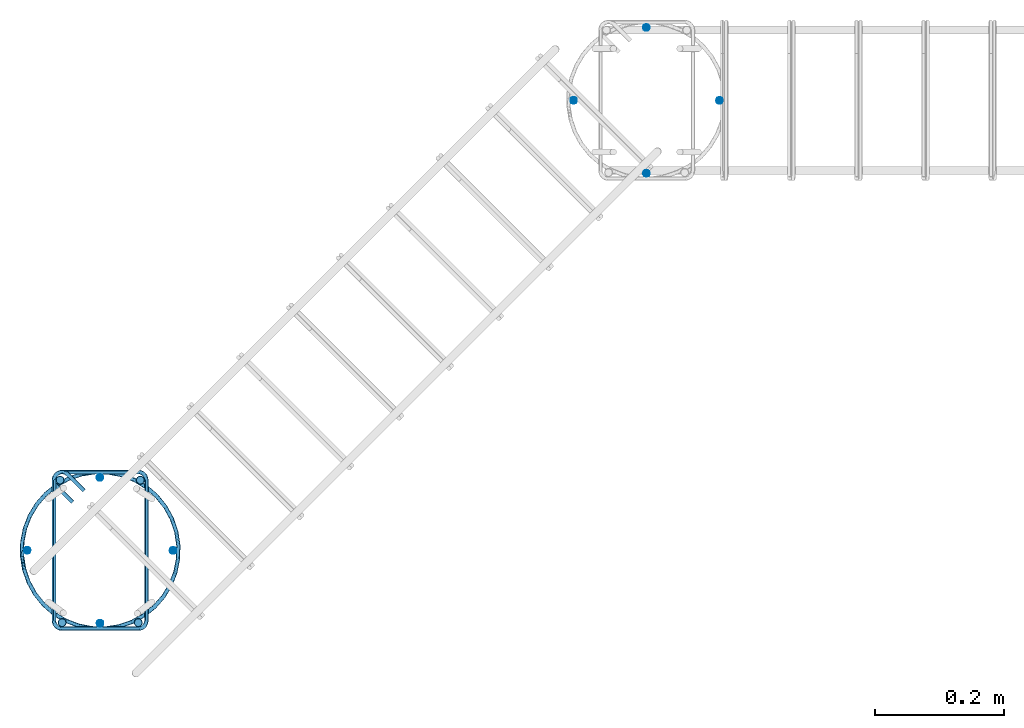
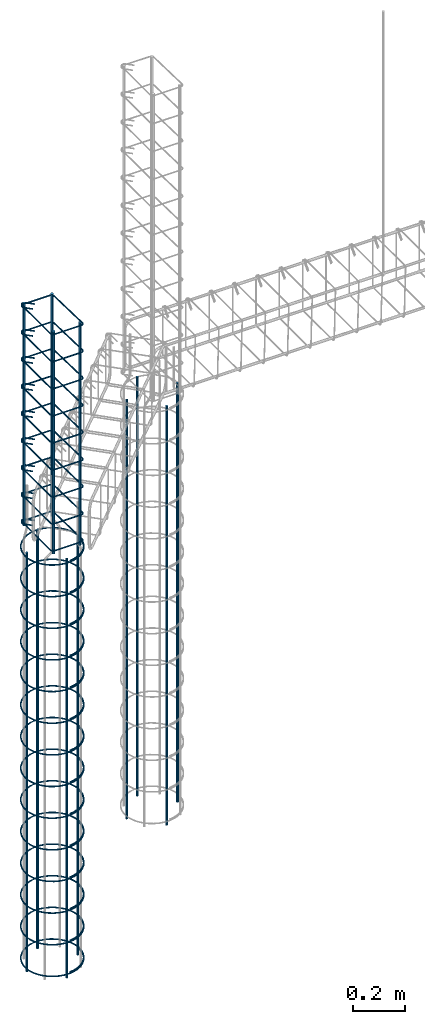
# One storey, part 2 of 14: 8 reinforcing bars.
"""IFC4 building model written with IfcOpenShell, lengths in centimetres."""

from ifc_helpers import new_model, entity, si_unit, converted_unit, derived_unit, direction, frame, origin, place, context, subcontext, project, spatial, type_object, element, save


model = new_model("IFC4")

# Units and contexts
model_context = context("Model", 3, precision=0.001, world=origin(), true_north=direction((6.123233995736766e-17, 1.0)))
body_context = subcontext(model_context, "Body", "Model", "MODEL_VIEW")
ifc_project = project(units=[si_unit("LENGTHUNIT", "METRE", prefix="CENTI"), si_unit("AREAUNIT", "SQUARE_METRE"), converted_unit("PLANEANGLEUNIT", "DEGREE", entity("IfcPlaneAngleMeasure", 0.017453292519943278), si_unit("PLANEANGLEUNIT", "RADIAN"), dimensions=[0, 0, 0, 0, 0, 0, 0]), si_unit("VOLUMEUNIT", "CUBIC_METRE"), derived_unit("THERMALTRANSMITTANCEUNIT", [(si_unit("MASSUNIT", "GRAM", prefix="KILO"), 1), (si_unit("THERMODYNAMICTEMPERATUREUNIT", "KELVIN"), -1), (si_unit("TIMEUNIT", "SECOND"), -3)])], contexts=[model_context])

# Site, building, storey
site_placement = place(None, origin())
site = spatial("IfcSite", under=ifc_project, at=site_placement, Name="Default", CompositionType="ELEMENT")
building_placement = place(site_placement, origin())
building = spatial("IfcBuilding", under=site, at=building_placement, Name="CONTENÇÃO DE ARQUIBANCADA - GINÁSIO PADRÃO", CompositionType="ELEMENT")
storey_placement = place(building_placement, frame((0.0, 0.0, -100.0)))
storey = spatial("IfcBuildingStorey", under=building, at=storey_placement, Name="Nível 3", CompositionType="ELEMENT", Elevation=-100.0)

# Reinforcing bars
reinforcing_bar_type_1 = type_object("IfcReinforcingBarType", Name="Barra do vergalhão:10 CA-50", PredefinedType="NOTDEFINED")
reinforcing_bar_1_placement = place(storey_placement, origin())
element("IfcReinforcingBar", 1, at=reinforcing_bar_1_placement, inside=storey, type_object=reinforcing_bar_type_1, Name="Barra do vergalhão:10 CA-50 : Forma 01", ObjectType="Barra do vergalhão:10 CA-50", context=body_context, shape_type="AdvancedSweptSolid", body=[
    entity("IfcSweptDiskSolid", entity("IfcIndexedPolyCurve", entity("IfcCartesianPointList3D", [[3.1267334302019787, 249.06545923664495, -129.99999999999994], [3.1267334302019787, 249.06545923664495, 68.00000000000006]]), None, False), 0.5, None, 0.0, 1.0),
    entity("IfcSweptDiskSolid", entity("IfcIndexedPolyCurve", entity("IfcCartesianPointList3D", [[25.816600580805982, 249.0327573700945, -129.99999999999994], [25.816600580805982, 249.0327573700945, 68.00000000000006]]), None, False), 0.5, None, 0.0, 1.0),
])
reinforcing_bar_2_placement = place(storey_placement, origin())
element("IfcReinforcingBar", 2, at=reinforcing_bar_2_placement, inside=storey, type_object=reinforcing_bar_type_1, Name="Barra do vergalhão:10 CA-50 : Forma 01", ObjectType="Barra do vergalhão:10 CA-50", context=body_context, shape_type="AdvancedSweptSolid", body=[
    entity("IfcSweptDiskSolid", entity("IfcIndexedPolyCurve", entity("IfcCartesianPointList3D", [[14.42261420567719, 260.39404187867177, -129.99999999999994], [14.42261420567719, 260.39404187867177, 68.00000000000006]]), None, False), 0.5, None, 0.0, 1.0),
    entity("IfcSweptDiskSolid", entity("IfcIndexedPolyCurve", entity("IfcCartesianPointList3D", [[14.455316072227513, 237.7041747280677, -129.99999999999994], [14.455316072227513, 237.7041747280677, 68.00000000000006]]), None, False), 0.5, None, 0.0, 1.0),
])
reinforcing_bar_3_placement = place(storey_placement, origin())
element("IfcReinforcingBar", 3, at=reinforcing_bar_3_placement, inside=storey, type_object=reinforcing_bar_type_1, Name="Barra do vergalhão:10 CA-50 : Forma 01", ObjectType="Barra do vergalhão:10 CA-50", context=body_context, shape_type="AdvancedSweptSolid", body=[
    entity("IfcSweptDiskSolid", entity("IfcIndexedPolyCurve", entity("IfcCartesianPointList3D", [[-81.87326656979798, 179.0654592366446, -129.99999999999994], [-81.87326656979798, 179.0654592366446, 68.00000000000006]]), None, False), 0.5, None, 0.0, 1.0),
    entity("IfcSweptDiskSolid", entity("IfcIndexedPolyCurve", entity("IfcCartesianPointList3D", [[-59.18339941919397, 179.03275737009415, -129.99999999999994], [-59.18339941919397, 179.03275737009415, 68.00000000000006]]), None, False), 0.5, None, 0.0, 1.0),
])
reinforcing_bar_4_placement = place(storey_placement, origin())
element("IfcReinforcingBar", 4, at=reinforcing_bar_4_placement, inside=storey, type_object=reinforcing_bar_type_1, Name="Barra do vergalhão:10 CA-50 : Forma 01", ObjectType="Barra do vergalhão:10 CA-50", context=body_context, shape_type="AdvancedSweptSolid", body=[
    entity("IfcSweptDiskSolid", entity("IfcIndexedPolyCurve", entity("IfcCartesianPointList3D", [[-70.57738579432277, 190.39404187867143, -129.99999999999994], [-70.57738579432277, 190.39404187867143, 68.00000000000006]]), None, False), 0.5, None, 0.0, 1.0),
    entity("IfcSweptDiskSolid", entity("IfcIndexedPolyCurve", entity("IfcCartesianPointList3D", [[-70.54468392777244, 167.70417472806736, -129.99999999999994], [-70.54468392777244, 167.70417472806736, 68.00000000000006]]), None, False), 0.5, None, 0.0, 1.0),
])
reinforcing_bar_type_2 = type_object("IfcReinforcingBarType", Name="Barra do vergalhão:12.5 CA-50", PredefinedType="NOTDEFINED")
reinforcing_bar_5_placement = place(storey_placement, origin())
element("IfcReinforcingBar", 5, at=reinforcing_bar_5_placement, inside=storey, type_object=reinforcing_bar_type_2, Name="Barra do vergalhão:12.5 CA-50 : Forma 01", ObjectType="Barra do vergalhão:12.5 CA-50", context=body_context, shape_type="AdvancedSweptSolid", body=[
    entity("IfcSweptDiskSolid", entity("IfcIndexedPolyCurve", entity("IfcCartesianPointList3D", [[-64.29968392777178, 189.999175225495, 72.5], [-64.29968392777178, 189.999175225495, 177.5]]), None, False), 0.625, None, 0.0, 1.0),
    entity("IfcSweptDiskSolid", entity("IfcIndexedPolyCurve", entity("IfcCartesianPointList3D", [[-76.78968392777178, 189.999175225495, 72.5], [-76.78968392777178, 189.999175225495, 177.5]]), None, False), 0.625, None, 0.0, 1.0),
])
reinforcing_bar_6_placement = place(storey_placement, origin())
element("IfcReinforcingBar", 6, at=reinforcing_bar_6_placement, inside=storey, type_object=reinforcing_bar_type_2, Name="Barra do vergalhão:12.5 CA-50 : Forma 01", ObjectType="Barra do vergalhão:12.5 CA-50", context=body_context, shape_type="AdvancedSweptSolid", body=[
    entity("IfcSweptDiskSolid", entity("IfcIndexedPolyCurve", entity("IfcCartesianPointList3D", [[-76.46968392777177, 167.829175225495, 72.5], [-76.46968392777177, 167.829175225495, 177.5]]), None, False), 0.625, None, 0.0, 1.0),
    entity("IfcSweptDiskSolid", entity("IfcIndexedPolyCurve", entity("IfcCartesianPointList3D", [[-64.61968392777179, 167.829175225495, 72.5], [-64.61968392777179, 167.829175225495, 177.5]]), None, False), 0.625, None, 0.0, 1.0),
])
reinforcing_bar_type_3 = type_object("IfcReinforcingBarType", Name="Barra do vergalhão:6.3 CA-50", PredefinedType="NOTDEFINED")
reinforcing_bar_7_placement = place(storey_placement, origin())
element("IfcReinforcingBar", 7, at=reinforcing_bar_7_placement, inside=storey, type_object=reinforcing_bar_type_3, Name="Barra do vergalhão:6.3 CA-50 : Forma 22", ObjectType="Barra do vergalhão:6.3 CA-50", context=body_context, shape_type="AdvancedSweptSolid", body=[
    entity("IfcSweptDiskSolid", entity("IfcIndexedPolyCurve", entity("IfcCartesianPointList3D", [[-73.02876448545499, 188.34016487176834, 74.30003342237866], [-75.57872938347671, 190.89012976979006, 74.30003342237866], [-76.95186505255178, 191.16326343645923, 74.30003342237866], [-77.72968392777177, 189.999175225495, 74.30003342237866], [-77.72968392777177, 168.149175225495, 74.30003342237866], [-77.36063847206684, 167.25822068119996, 74.30003342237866], [-76.46968392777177, 166.889175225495, 74.30003342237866], [-64.6196839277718, 166.889175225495, 74.30003342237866], [-63.72872938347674, 167.25809742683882, 74.29049624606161], [-63.35968392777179, 168.1487544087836, 74.26747146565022], [-63.35968392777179, 189.9995960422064, 73.70259537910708], [-63.728729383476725, 190.8902530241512, 73.67957059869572], [-64.61968392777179, 191.259175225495, 73.67003342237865], [-76.46968392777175, 191.25917522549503, 73.67003342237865], [-77.63377213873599, 190.48135635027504, 73.67003342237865], [-77.36063847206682, 189.10822068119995, 73.67003342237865], [-74.8106735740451, 186.55825578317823, 73.67003342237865]]), [entity("IfcLineIndex", [1, 2]), entity("IfcArcIndex", [2, 3, 4]), entity("IfcLineIndex", [4, 5]), entity("IfcArcIndex", [5, 6, 7]), entity("IfcLineIndex", [7, 8]), entity("IfcArcIndex", [8, 9, 10]), entity("IfcLineIndex", [10, 11]), entity("IfcArcIndex", [11, 12, 13]), entity("IfcLineIndex", [13, 14]), entity("IfcArcIndex", [14, 15, 16]), entity("IfcLineIndex", [16, 17])], False), 0.31499999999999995, None, 0.0, 546.0000000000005),
    entity("IfcSweptDiskSolid", entity("IfcIndexedPolyCurve", entity("IfcCartesianPointList3D", [[-73.02876448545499, 188.34016487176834, 87.0840551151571], [-75.57872938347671, 190.89012976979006, 87.0840551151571], [-76.95186505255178, 191.16326343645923, 87.0840551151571], [-77.72968392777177, 189.999175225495, 87.0840551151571], [-77.72968392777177, 168.149175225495, 87.0840551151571], [-77.36063847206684, 167.25822068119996, 87.0840551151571], [-76.46968392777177, 166.889175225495, 87.0840551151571], [-64.6196839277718, 166.889175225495, 87.0840551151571], [-63.72872938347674, 167.25809742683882, 87.07451793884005], [-63.35968392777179, 168.1487544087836, 87.05149315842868], [-63.35968392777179, 189.9995960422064, 86.48661707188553], [-63.728729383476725, 190.8902530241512, 86.46359229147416], [-64.61968392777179, 191.259175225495, 86.4540551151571], [-76.46968392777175, 191.25917522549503, 86.4540551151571], [-77.63377213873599, 190.48135635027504, 86.4540551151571], [-77.36063847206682, 189.10822068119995, 86.4540551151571], [-74.8106735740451, 186.55825578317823, 86.4540551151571]]), [entity("IfcLineIndex", [1, 2]), entity("IfcArcIndex", [2, 3, 4]), entity("IfcLineIndex", [4, 5]), entity("IfcArcIndex", [5, 6, 7]), entity("IfcLineIndex", [7, 8]), entity("IfcArcIndex", [8, 9, 10]), entity("IfcLineIndex", [10, 11]), entity("IfcArcIndex", [11, 12, 13]), entity("IfcLineIndex", [13, 14]), entity("IfcArcIndex", [14, 15, 16]), entity("IfcLineIndex", [16, 17])], False), 0.31499999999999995, None, 0.0, 546.0000000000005),
    entity("IfcSweptDiskSolid", entity("IfcIndexedPolyCurve", entity("IfcCartesianPointList3D", [[-73.02876448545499, 188.34016487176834, 99.86807680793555], [-75.57872938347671, 190.89012976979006, 99.86807680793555], [-76.95186505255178, 191.16326343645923, 99.86807680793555], [-77.72968392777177, 189.999175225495, 99.86807680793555], [-77.72968392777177, 168.149175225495, 99.86807680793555], [-77.36063847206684, 167.25822068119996, 99.86807680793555], [-76.46968392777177, 166.889175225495, 99.86807680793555], [-64.6196839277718, 166.889175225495, 99.86807680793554], [-63.72872938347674, 167.25809742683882, 99.8585396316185], [-63.35968392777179, 168.1487544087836, 99.83551485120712], [-63.35968392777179, 189.9995960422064, 99.27063876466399], [-63.728729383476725, 190.8902530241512, 99.24761398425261], [-64.61968392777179, 191.259175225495, 99.23807680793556], [-76.46968392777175, 191.25917522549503, 99.23807680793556], [-77.63377213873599, 190.48135635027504, 99.23807680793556], [-77.36063847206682, 189.10822068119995, 99.23807680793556], [-74.8106735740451, 186.55825578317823, 99.23807680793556]]), [entity("IfcLineIndex", [1, 2]), entity("IfcArcIndex", [2, 3, 4]), entity("IfcLineIndex", [4, 5]), entity("IfcArcIndex", [5, 6, 7]), entity("IfcLineIndex", [7, 8]), entity("IfcArcIndex", [8, 9, 10]), entity("IfcLineIndex", [10, 11]), entity("IfcArcIndex", [11, 12, 13]), entity("IfcLineIndex", [13, 14]), entity("IfcArcIndex", [14, 15, 16]), entity("IfcLineIndex", [16, 17])], False), 0.31499999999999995, None, 0.0, 546.0000000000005),
    entity("IfcSweptDiskSolid", entity("IfcIndexedPolyCurve", entity("IfcCartesianPointList3D", [[-73.02876448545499, 188.34016487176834, 112.652098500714], [-75.57872938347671, 190.89012976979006, 112.652098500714], [-76.95186505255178, 191.16326343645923, 112.652098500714], [-77.72968392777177, 189.999175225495, 112.652098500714], [-77.72968392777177, 168.149175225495, 112.652098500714], [-77.36063847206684, 167.25822068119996, 112.652098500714], [-76.46968392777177, 166.889175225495, 112.652098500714], [-64.6196839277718, 166.889175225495, 112.652098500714], [-63.72872938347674, 167.25809742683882, 112.64256132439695], [-63.35968392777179, 168.1487544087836, 112.61953654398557], [-63.35968392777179, 189.9995960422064, 112.05466045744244], [-63.728729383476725, 190.8902530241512, 112.03163567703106], [-64.61968392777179, 191.259175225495, 112.02209850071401], [-76.46968392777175, 191.25917522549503, 112.02209850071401], [-77.63377213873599, 190.48135635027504, 112.02209850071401], [-77.36063847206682, 189.10822068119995, 112.02209850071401], [-74.8106735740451, 186.55825578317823, 112.02209850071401]]), [entity("IfcLineIndex", [1, 2]), entity("IfcArcIndex", [2, 3, 4]), entity("IfcLineIndex", [4, 5]), entity("IfcArcIndex", [5, 6, 7]), entity("IfcLineIndex", [7, 8]), entity("IfcArcIndex", [8, 9, 10]), entity("IfcLineIndex", [10, 11]), entity("IfcArcIndex", [11, 12, 13]), entity("IfcLineIndex", [13, 14]), entity("IfcArcIndex", [14, 15, 16]), entity("IfcLineIndex", [16, 17])], False), 0.31499999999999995, None, 0.0, 546.0000000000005),
    entity("IfcSweptDiskSolid", entity("IfcIndexedPolyCurve", entity("IfcCartesianPointList3D", [[-73.02876448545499, 188.34016487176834, 125.43612019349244], [-75.57872938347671, 190.89012976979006, 125.43612019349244], [-76.95186505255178, 191.16326343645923, 125.43612019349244], [-77.72968392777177, 189.999175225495, 125.43612019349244], [-77.72968392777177, 168.149175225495, 125.43612019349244], [-77.36063847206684, 167.25822068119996, 125.43612019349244], [-76.46968392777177, 166.889175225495, 125.43612019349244], [-64.6196839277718, 166.889175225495, 125.43612019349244], [-63.72872938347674, 167.25809742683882, 125.4265830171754], [-63.35968392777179, 168.1487544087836, 125.40355823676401], [-63.35968392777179, 189.9995960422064, 124.83868215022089], [-63.728729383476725, 190.8902530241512, 124.8156573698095], [-64.61968392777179, 191.259175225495, 124.80612019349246], [-76.46968392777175, 191.25917522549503, 124.80612019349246], [-77.63377213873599, 190.48135635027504, 124.80612019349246], [-77.36063847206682, 189.10822068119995, 124.80612019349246], [-74.8106735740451, 186.55825578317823, 124.80612019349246]]), [entity("IfcLineIndex", [1, 2]), entity("IfcArcIndex", [2, 3, 4]), entity("IfcLineIndex", [4, 5]), entity("IfcArcIndex", [5, 6, 7]), entity("IfcLineIndex", [7, 8]), entity("IfcArcIndex", [8, 9, 10]), entity("IfcLineIndex", [10, 11]), entity("IfcArcIndex", [11, 12, 13]), entity("IfcLineIndex", [13, 14]), entity("IfcArcIndex", [14, 15, 16]), entity("IfcLineIndex", [16, 17])], False), 0.31499999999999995, None, 0.0, 546.0000000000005),
    entity("IfcSweptDiskSolid", entity("IfcIndexedPolyCurve", entity("IfcCartesianPointList3D", [[-73.02876448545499, 188.34016487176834, 138.22014188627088], [-75.57872938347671, 190.89012976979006, 138.22014188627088], [-76.95186505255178, 191.16326343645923, 138.22014188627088], [-77.72968392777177, 189.999175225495, 138.22014188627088], [-77.72968392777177, 168.149175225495, 138.22014188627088], [-77.36063847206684, 167.25822068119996, 138.22014188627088], [-76.46968392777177, 166.889175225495, 138.22014188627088], [-64.6196839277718, 166.889175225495, 138.22014188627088], [-63.72872938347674, 167.25809742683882, 138.21060470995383], [-63.35968392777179, 168.1487544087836, 138.18757992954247], [-63.35968392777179, 189.9995960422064, 137.62270384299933], [-63.728729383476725, 190.8902530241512, 137.59967906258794], [-64.61968392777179, 191.259175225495, 137.5901418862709], [-76.46968392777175, 191.25917522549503, 137.5901418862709], [-77.63377213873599, 190.48135635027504, 137.5901418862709], [-77.36063847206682, 189.10822068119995, 137.5901418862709], [-74.8106735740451, 186.55825578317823, 137.5901418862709]]), [entity("IfcLineIndex", [1, 2]), entity("IfcArcIndex", [2, 3, 4]), entity("IfcLineIndex", [4, 5]), entity("IfcArcIndex", [5, 6, 7]), entity("IfcLineIndex", [7, 8]), entity("IfcArcIndex", [8, 9, 10]), entity("IfcLineIndex", [10, 11]), entity("IfcArcIndex", [11, 12, 13]), entity("IfcLineIndex", [13, 14]), entity("IfcArcIndex", [14, 15, 16]), entity("IfcLineIndex", [16, 17])], False), 0.31499999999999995, None, 0.0, 546.0000000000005),
    entity("IfcSweptDiskSolid", entity("IfcIndexedPolyCurve", entity("IfcCartesianPointList3D", [[-73.02876448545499, 188.34016487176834, 151.00416357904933], [-75.57872938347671, 190.89012976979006, 151.00416357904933], [-76.95186505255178, 191.16326343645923, 151.00416357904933], [-77.72968392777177, 189.999175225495, 151.00416357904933], [-77.72968392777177, 168.149175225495, 151.00416357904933], [-77.36063847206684, 167.25822068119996, 151.00416357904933], [-76.46968392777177, 166.889175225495, 151.00416357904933], [-64.6196839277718, 166.889175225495, 151.00416357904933], [-63.72872938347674, 167.25809742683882, 150.99462640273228], [-63.35968392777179, 168.1487544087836, 150.97160162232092], [-63.35968392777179, 189.9995960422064, 150.40672553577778], [-63.728729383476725, 190.8902530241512, 150.3837007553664], [-64.61968392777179, 191.259175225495, 150.37416357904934], [-76.46968392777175, 191.25917522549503, 150.37416357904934], [-77.63377213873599, 190.48135635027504, 150.37416357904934], [-77.36063847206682, 189.10822068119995, 150.37416357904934], [-74.8106735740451, 186.55825578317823, 150.37416357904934]]), [entity("IfcLineIndex", [1, 2]), entity("IfcArcIndex", [2, 3, 4]), entity("IfcLineIndex", [4, 5]), entity("IfcArcIndex", [5, 6, 7]), entity("IfcLineIndex", [7, 8]), entity("IfcArcIndex", [8, 9, 10]), entity("IfcLineIndex", [10, 11]), entity("IfcArcIndex", [11, 12, 13]), entity("IfcLineIndex", [13, 14]), entity("IfcArcIndex", [14, 15, 16]), entity("IfcLineIndex", [16, 17])], False), 0.31499999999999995, None, 0.0, 546.0000000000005),
    entity("IfcSweptDiskSolid", entity("IfcIndexedPolyCurve", entity("IfcCartesianPointList3D", [[-73.02876448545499, 188.34016487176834, 163.78818527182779], [-75.57872938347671, 190.89012976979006, 163.78818527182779], [-76.95186505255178, 191.16326343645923, 163.78818527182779], [-77.72968392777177, 189.999175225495, 163.78818527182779], [-77.72968392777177, 168.149175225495, 163.78818527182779], [-77.36063847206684, 167.25822068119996, 163.78818527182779], [-76.46968392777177, 166.889175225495, 163.78818527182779], [-64.6196839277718, 166.889175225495, 163.78818527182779], [-63.72872938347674, 167.25809742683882, 163.77864809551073], [-63.35968392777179, 168.1487544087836, 163.75562331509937], [-63.35968392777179, 189.9995960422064, 163.19074722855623], [-63.728729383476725, 190.8902530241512, 163.16772244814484], [-64.61968392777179, 191.259175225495, 163.1581852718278], [-76.46968392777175, 191.25917522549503, 163.1581852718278], [-77.63377213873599, 190.48135635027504, 163.1581852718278], [-77.36063847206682, 189.10822068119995, 163.1581852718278], [-74.8106735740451, 186.55825578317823, 163.1581852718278]]), [entity("IfcLineIndex", [1, 2]), entity("IfcArcIndex", [2, 3, 4]), entity("IfcLineIndex", [4, 5]), entity("IfcArcIndex", [5, 6, 7]), entity("IfcLineIndex", [7, 8]), entity("IfcArcIndex", [8, 9, 10]), entity("IfcLineIndex", [10, 11]), entity("IfcArcIndex", [11, 12, 13]), entity("IfcLineIndex", [13, 14]), entity("IfcArcIndex", [14, 15, 16]), entity("IfcLineIndex", [16, 17])], False), 0.31499999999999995, None, 0.0, 546.0000000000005),
    entity("IfcSweptDiskSolid", entity("IfcIndexedPolyCurve", entity("IfcCartesianPointList3D", [[-73.02876448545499, 188.34016487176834, 176.57220696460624], [-75.57872938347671, 190.89012976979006, 176.57220696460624], [-76.95186505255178, 191.16326343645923, 176.57220696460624], [-77.72968392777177, 189.999175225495, 176.57220696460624], [-77.72968392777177, 168.149175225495, 176.57220696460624], [-77.36063847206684, 167.25822068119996, 176.57220696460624], [-76.46968392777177, 166.889175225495, 176.57220696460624], [-64.6196839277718, 166.889175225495, 176.57220696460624], [-63.72872938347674, 167.25809742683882, 176.56266978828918], [-63.35968392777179, 168.1487544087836, 176.53964500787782], [-63.35968392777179, 189.9995960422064, 175.97476892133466], [-63.728729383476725, 190.8902530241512, 175.9517441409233], [-64.61968392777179, 191.259175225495, 175.94220696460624], [-76.46968392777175, 191.25917522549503, 175.94220696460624], [-77.63377213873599, 190.48135635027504, 175.94220696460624], [-77.36063847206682, 189.10822068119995, 175.94220696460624], [-74.8106735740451, 186.55825578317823, 175.94220696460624]]), [entity("IfcLineIndex", [1, 2]), entity("IfcArcIndex", [2, 3, 4]), entity("IfcLineIndex", [4, 5]), entity("IfcArcIndex", [5, 6, 7]), entity("IfcLineIndex", [7, 8]), entity("IfcArcIndex", [8, 9, 10]), entity("IfcLineIndex", [10, 11]), entity("IfcArcIndex", [11, 12, 13]), entity("IfcLineIndex", [13, 14]), entity("IfcArcIndex", [14, 15, 16]), entity("IfcLineIndex", [16, 17])], False), 0.31499999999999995, None, 0.0, 546.0000000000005),
])
reinforcing_bar_8_placement = place(storey_placement, origin())
element("IfcReinforcingBar", 8, at=reinforcing_bar_8_placement, inside=storey, type_object=reinforcing_bar_type_3, Name="Barra do vergalhão:6.3 CA-50 : Forma 33", ObjectType="Barra do vergalhão:6.3 CA-50", context=body_context, shape_type="AdvancedSweptSolid", body=[
    entity("IfcSweptDiskSolid", entity("IfcIndexedPolyCurve", entity("IfcCartesianPointList3D", [[-69.72516478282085, 166.91676541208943, -127.19078734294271], [-58.3872741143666, 179.89369437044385, -127.19078734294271], [-71.36420307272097, 191.23158503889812, -127.19078734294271], [-79.7207583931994, 187.09127460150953, -127.50578734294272], [-82.7020937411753, 178.2546560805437, -127.82078734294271], [-69.7251647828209, 166.91676541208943, -127.82078734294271], [-58.3872741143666, 179.89369437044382, -127.82078734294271]]), [entity("IfcArcIndex", [1, 2, 3]), entity("IfcArcIndex", [3, 4, 5]), entity("IfcArcIndex", [5, 6, 7])], False), 0.31499999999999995, None, 0.0, 449.9458977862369),
    entity("IfcSweptDiskSolid", entity("IfcIndexedPolyCurve", entity("IfcCartesianPointList3D", [[-69.72516478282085, 166.91676541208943, -112.23880370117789], [-58.3872741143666, 179.89369437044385, -112.23880370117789], [-71.36420307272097, 191.23158503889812, -112.23880370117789], [-79.7207583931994, 187.09127460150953, -112.5538037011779], [-82.7020937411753, 178.2546560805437, -112.86880370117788], [-69.7251647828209, 166.91676541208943, -112.86880370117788], [-58.3872741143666, 179.89369437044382, -112.86880370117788]]), [entity("IfcArcIndex", [1, 2, 3]), entity("IfcArcIndex", [3, 4, 5]), entity("IfcArcIndex", [5, 6, 7])], False), 0.31499999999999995, None, 0.0, 449.9458977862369),
    entity("IfcSweptDiskSolid", entity("IfcIndexedPolyCurve", entity("IfcCartesianPointList3D", [[-69.72516478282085, 166.91676541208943, -97.28682005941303], [-58.3872741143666, 179.89369437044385, -97.28682005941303], [-71.36420307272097, 191.23158503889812, -97.28682005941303], [-79.7207583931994, 187.09127460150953, -97.60182005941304], [-82.7020937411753, 178.2546560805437, -97.91682005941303], [-69.7251647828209, 166.91676541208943, -97.91682005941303], [-58.3872741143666, 179.89369437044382, -97.91682005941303]]), [entity("IfcArcIndex", [1, 2, 3]), entity("IfcArcIndex", [3, 4, 5]), entity("IfcArcIndex", [5, 6, 7])], False), 0.31499999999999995, None, 0.0, 449.9458977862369),
    entity("IfcSweptDiskSolid", entity("IfcIndexedPolyCurve", entity("IfcCartesianPointList3D", [[-69.72516478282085, 166.91676541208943, -82.33483641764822], [-58.3872741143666, 179.89369437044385, -82.33483641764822], [-71.36420307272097, 191.23158503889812, -82.33483641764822], [-79.7207583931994, 187.09127460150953, -82.64983641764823], [-82.7020937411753, 178.2546560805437, -82.9648364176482], [-69.7251647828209, 166.91676541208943, -82.9648364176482], [-58.3872741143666, 179.89369437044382, -82.9648364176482]]), [entity("IfcArcIndex", [1, 2, 3]), entity("IfcArcIndex", [3, 4, 5]), entity("IfcArcIndex", [5, 6, 7])], False), 0.31499999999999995, None, 0.0, 449.9458977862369),
    entity("IfcSweptDiskSolid", entity("IfcIndexedPolyCurve", entity("IfcCartesianPointList3D", [[-69.72516478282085, 166.91676541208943, -67.38285277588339], [-58.3872741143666, 179.89369437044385, -67.38285277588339], [-71.36420307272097, 191.23158503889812, -67.38285277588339], [-79.7207583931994, 187.09127460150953, -67.6978527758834], [-82.7020937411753, 178.2546560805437, -68.01285277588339], [-69.7251647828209, 166.91676541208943, -68.01285277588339], [-58.3872741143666, 179.89369437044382, -68.01285277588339]]), [entity("IfcArcIndex", [1, 2, 3]), entity("IfcArcIndex", [3, 4, 5]), entity("IfcArcIndex", [5, 6, 7])], False), 0.31499999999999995, None, 0.0, 449.9458977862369),
    entity("IfcSweptDiskSolid", entity("IfcIndexedPolyCurve", entity("IfcCartesianPointList3D", [[-69.72516478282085, 166.91676541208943, -52.43086913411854], [-58.3872741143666, 179.89369437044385, -52.43086913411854], [-71.36420307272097, 191.23158503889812, -52.430869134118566], [-79.7207583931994, 187.09127460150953, -52.74586913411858], [-82.7020937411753, 178.2546560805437, -53.06086913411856], [-69.7251647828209, 166.91676541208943, -53.06086913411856], [-58.3872741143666, 179.89369437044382, -53.06086913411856]]), [entity("IfcArcIndex", [1, 2, 3]), entity("IfcArcIndex", [3, 4, 5]), entity("IfcArcIndex", [5, 6, 7])], False), 0.31499999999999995, None, 0.0, 449.9458977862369),
    entity("IfcSweptDiskSolid", entity("IfcIndexedPolyCurve", entity("IfcCartesianPointList3D", [[-69.72516478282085, 166.91676541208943, -37.47888549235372], [-58.3872741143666, 179.89369437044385, -37.47888549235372], [-71.36420307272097, 191.23158503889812, -37.47888549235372], [-79.7207583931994, 187.09127460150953, -37.79388549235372], [-82.7020937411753, 178.2546560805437, -38.10888549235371], [-69.7251647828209, 166.91676541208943, -38.10888549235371], [-58.3872741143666, 179.89369437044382, -38.10888549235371]]), [entity("IfcArcIndex", [1, 2, 3]), entity("IfcArcIndex", [3, 4, 5]), entity("IfcArcIndex", [5, 6, 7])], False), 0.31499999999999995, None, 0.0, 449.9458977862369),
    entity("IfcSweptDiskSolid", entity("IfcIndexedPolyCurve", entity("IfcCartesianPointList3D", [[-69.72516478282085, 166.91676541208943, -22.526901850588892], [-58.3872741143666, 179.89369437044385, -22.526901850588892], [-71.36420307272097, 191.23158503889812, -22.526901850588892], [-79.7207583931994, 187.09127460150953, -22.841901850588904], [-82.7020937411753, 178.2546560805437, -23.156901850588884], [-69.7251647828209, 166.91676541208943, -23.156901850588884], [-58.3872741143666, 179.89369437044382, -23.156901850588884]]), [entity("IfcArcIndex", [1, 2, 3]), entity("IfcArcIndex", [3, 4, 5]), entity("IfcArcIndex", [5, 6, 7])], False), 0.31499999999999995, None, 0.0, 449.9458977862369),
    entity("IfcSweptDiskSolid", entity("IfcIndexedPolyCurve", entity("IfcCartesianPointList3D", [[-69.72516478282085, 166.91676541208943, -7.574918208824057], [-58.3872741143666, 179.89369437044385, -7.574918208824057], [-71.36420307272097, 191.23158503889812, -7.57491820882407], [-79.7207583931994, 187.09127460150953, -7.889918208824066], [-82.7020937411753, 178.2546560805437, -8.204918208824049], [-69.7251647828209, 166.91676541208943, -8.204918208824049], [-58.3872741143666, 179.89369437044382, -8.204918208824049]]), [entity("IfcArcIndex", [1, 2, 3]), entity("IfcArcIndex", [3, 4, 5]), entity("IfcArcIndex", [5, 6, 7])], False), 0.31499999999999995, None, 0.0, 449.9458977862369),
    entity("IfcSweptDiskSolid", entity("IfcIndexedPolyCurve", entity("IfcCartesianPointList3D", [[-69.72516478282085, 166.91676541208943, 7.37706543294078], [-58.3872741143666, 179.89369437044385, 7.37706543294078], [-71.36420307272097, 191.23158503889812, 7.377065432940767], [-79.7207583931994, 187.09127460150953, 7.062065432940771], [-82.7020937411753, 178.2546560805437, 6.747065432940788], [-69.7251647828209, 166.91676541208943, 6.747065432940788], [-58.3872741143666, 179.89369437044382, 6.747065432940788]]), [entity("IfcArcIndex", [1, 2, 3]), entity("IfcArcIndex", [3, 4, 5]), entity("IfcArcIndex", [5, 6, 7])], False), 0.31499999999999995, None, 0.0, 449.9458977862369),
    entity("IfcSweptDiskSolid", entity("IfcIndexedPolyCurve", entity("IfcCartesianPointList3D", [[-69.72516478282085, 166.91676541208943, 22.329049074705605], [-58.3872741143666, 179.89369437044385, 22.329049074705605], [-71.36420307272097, 191.23158503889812, 22.32904907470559], [-79.7207583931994, 187.09127460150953, 22.014049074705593], [-82.7020937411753, 178.2546560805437, 21.699049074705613], [-69.7251647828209, 166.91676541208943, 21.699049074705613], [-58.3872741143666, 179.89369437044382, 21.699049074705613]]), [entity("IfcArcIndex", [1, 2, 3]), entity("IfcArcIndex", [3, 4, 5]), entity("IfcArcIndex", [5, 6, 7])], False), 0.31499999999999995, None, 0.0, 449.9458977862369),
    entity("IfcSweptDiskSolid", entity("IfcIndexedPolyCurve", entity("IfcCartesianPointList3D", [[-69.72516478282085, 166.91676541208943, 37.28103271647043], [-58.3872741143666, 179.89369437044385, 37.28103271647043], [-71.36420307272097, 191.23158503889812, 37.28103271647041], [-79.7207583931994, 187.09127460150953, 36.966032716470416], [-82.7020937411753, 178.2546560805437, 36.65103271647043], [-69.7251647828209, 166.91676541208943, 36.65103271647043], [-58.3872741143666, 179.89369437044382, 36.65103271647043]]), [entity("IfcArcIndex", [1, 2, 3]), entity("IfcArcIndex", [3, 4, 5]), entity("IfcArcIndex", [5, 6, 7])], False), 0.31499999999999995, None, 0.0, 449.9458977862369),
    entity("IfcSweptDiskSolid", entity("IfcIndexedPolyCurve", entity("IfcCartesianPointList3D", [[-69.72516478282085, 166.91676541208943, 52.233016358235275], [-58.3872741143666, 179.89369437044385, 52.233016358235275], [-71.36420307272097, 191.23158503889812, 52.23301635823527], [-79.7207583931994, 187.09127460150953, 51.91801635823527], [-82.7020937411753, 178.2546560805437, 51.60301635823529], [-69.7251647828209, 166.91676541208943, 51.60301635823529], [-58.3872741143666, 179.89369437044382, 51.60301635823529]]), [entity("IfcArcIndex", [1, 2, 3]), entity("IfcArcIndex", [3, 4, 5]), entity("IfcArcIndex", [5, 6, 7])], False), 0.31499999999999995, None, 0.0, 449.9458977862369),
    entity("IfcSweptDiskSolid", entity("IfcIndexedPolyCurve", entity("IfcCartesianPointList3D", [[-69.72516478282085, 166.91676541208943, 67.1850000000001], [-58.3872741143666, 179.89369437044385, 67.1850000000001], [-71.36420307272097, 191.23158503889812, 67.1850000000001], [-79.7207583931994, 187.09127460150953, 66.87000000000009], [-82.7020937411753, 178.2546560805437, 66.5550000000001], [-69.7251647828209, 166.91676541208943, 66.5550000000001], [-58.3872741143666, 179.89369437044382, 66.5550000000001]]), [entity("IfcArcIndex", [1, 2, 3]), entity("IfcArcIndex", [3, 4, 5]), entity("IfcArcIndex", [5, 6, 7])], False), 0.31499999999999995, None, 0.0, 449.9458977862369),
])

save(model, "model.ifc")
